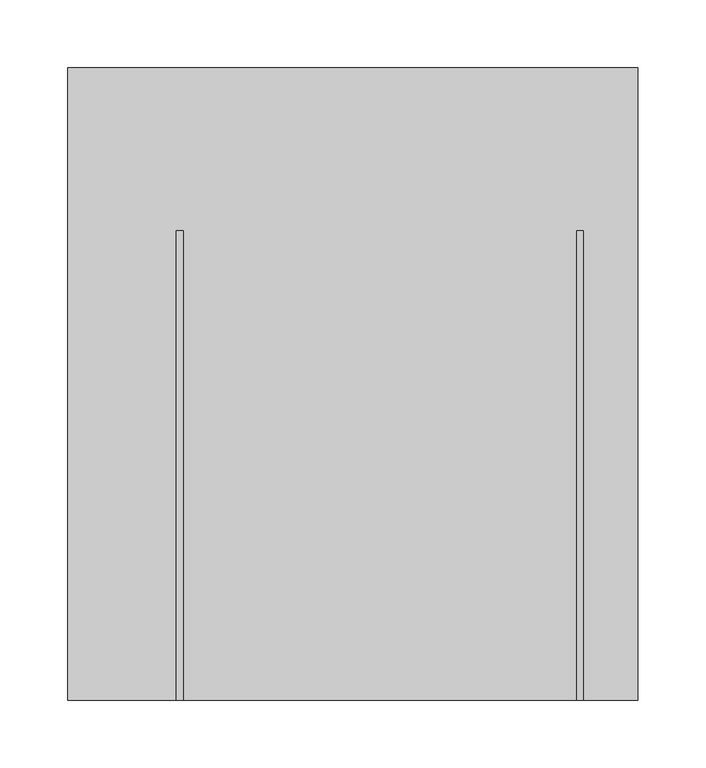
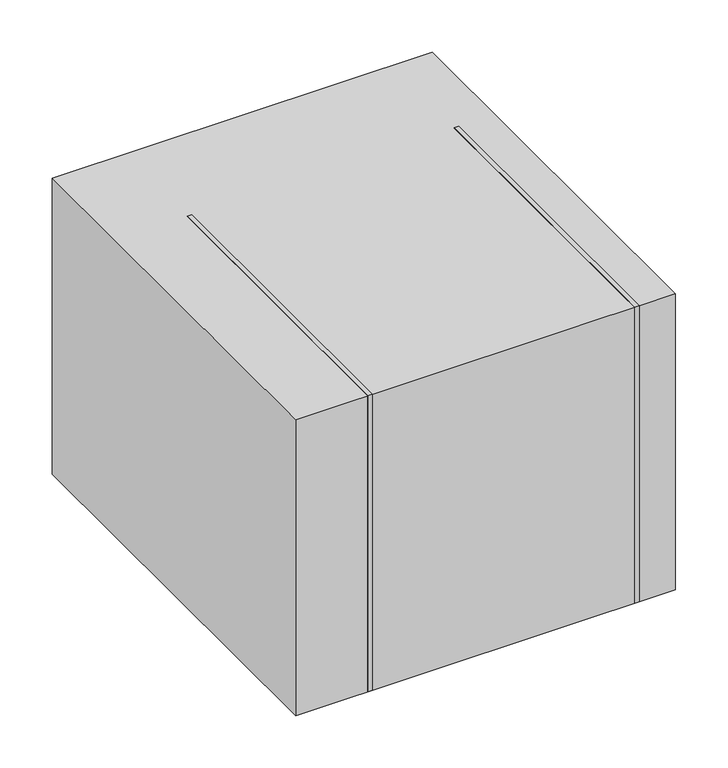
"""IFC4 building model written with IfcOpenShell, lengths in millimetres: damper geometry, КлапанДымовой_НЗ_LVS : КлапанДымовой_НЗ_LVS."""

from ifc_helpers import new_model, si_unit, frame, origin, place, context, project, spatial, polyline, outline, extrude, faceted_brep, source, transform, mapped, element, save


def damper_64ad2245(model_context):
    return source(origin(), model_context, "Body", "SolidModel", [
        extrude(outline(polyline([(70.0, 293.0), (70.0, 150.0), (-130.0, 150.0), (-130.0, 293.0), (70.0, 293.0)])), frame((0.0, 0.0, -52.0), z_axis=(0.0, 0.0, 1.0), x_axis=(1.0, 0.0, 0.0)), (0.0, 0.0, 1.0), 104.0),
        faceted_brep([(150.0, -173.0, 173.0), (150.0, -173.0, -173.0), (150.0, 173.0, -173.0), (150.0, 173.0, 173.0), (-150.0, -173.0, 173.0), (-150.0, 173.0, 173.0), (-150.0, 173.0, -173.0), (-150.0, -173.0, -173.0), (145.0, -173.0, 173.0), (145.0, -173.0, -173.0), (-145.0, -173.0, -173.0), (-145.0, -173.0, 173.0), (145.0, 173.0, -173.0), (-145.0, 173.0, -173.0), (145.0, 173.0, 173.0), (-145.0, 173.0, 173.0), (145.0, 150.0, 150.0), (145.0, -150.0, 150.0), (145.0, -150.0, -150.0), (145.0, 150.0, -150.0), (-145.0, 150.0, 150.0), (-145.0, 150.0, -150.0), (-145.0, -150.0, -150.0), (-145.0, -150.0, 150.0)], [[[0, 1, 2, 3]], [[4, 5, 6, 7]], [[1, 0, 8, 9]], [[4, 7, 10, 11]], [[2, 1, 9, 12]], [[7, 6, 13, 10]], [[3, 2, 12, 14]], [[6, 5, 15, 13]], [[0, 3, 14, 8]], [[5, 4, 11, 15]], [[9, 8, 14, 12], [16, 17, 18, 19]], [[11, 10, 13, 15], [20, 21, 22, 23]], [[16, 19, 21, 20]], [[19, 18, 22, 21]], [[18, 17, 23, 22]], [[17, 16, 20, 23]]]),
        extrude(outline(polyline([(190.0, 293.0), (190.0, -173.0), (-230.0, -173.0), (-230.0, 293.0), (190.0, 293.0)])), frame((0.0, 0.0, -173.0), z_axis=(0.0, 0.0, 1.0), x_axis=(1.0, 0.0, 0.0)), (0.0, 0.0, 1.0), 346.0),
    ])


if __name__ == "__main__":
    model = new_model("IFC4")
    model_context = context("Model", 3, world=origin())
    ifc_project = project(units=[si_unit("LENGTHUNIT", "METRE", prefix="MILLI")], contexts=[model_context])
    site = spatial("IfcSite", under=ifc_project)
    building = spatial("IfcBuilding", under=site)
    placement = place(None, origin())
    damper_shape = damper_64ad2245(model_context)
    element("IfcDamper", 1, ObjectType="КлапанДымовой_НЗ_LVS : КлапанДымовой_НЗ_LVS", at=placement, inside=building, context=model_context, shape_type="MappedRepresentation", body=[
        mapped(damper_shape, transform((0.0, 0.0, 0.0), x_axis=(1.0, 0.0, 0.0), y_axis=(0.0, 1.0, 0.0), z_axis=(0.0, 0.0, 1.0))),
    ])
    save(model, "model.ifc")
